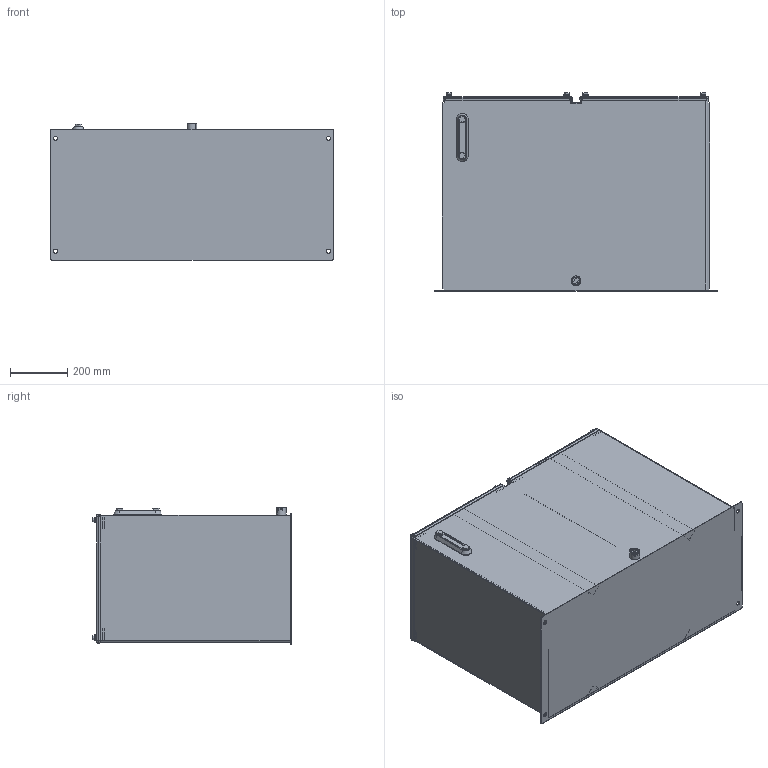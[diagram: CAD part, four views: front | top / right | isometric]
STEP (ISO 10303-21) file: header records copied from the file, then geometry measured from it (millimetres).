
FILE_DESCRIPTION (( 'STEP AP203' ), '1' );
FILE_NAME ('RDVS60-3.STEP', '2015-01-08T15:29:34', ( '' ), ( '' ), 'SwSTEP 2.0', 'SolidWorks 2014', '' );
FILE_SCHEMA (( 'CONFIG_CONTROL_DESIGN' ));
Length unit declared in the file: inch
Products named in the file (1): RDVS60-3
Bounding box: 990.6 x 691.54 x 476.25 mm (x, y, z)
Volume: 8782811.3 mm3; surface area: 5817615.2 mm2
Topology: 46 solids, 46 shells, 757 faces, 1740 edges, 1098 vertices
Faces by surface type: plane 371, cylinder 206, cone 110, torus 70
Entity records: 21455 total; most frequent: DIRECTION 3924, CARTESIAN_POINT 3608, ORIENTED_EDGE 3480, EDGE_CURVE 1740, AXIS2_PLACEMENT_3D 1430, VERTEX_POINT 1098, VECTOR 1064, LINE 1064
